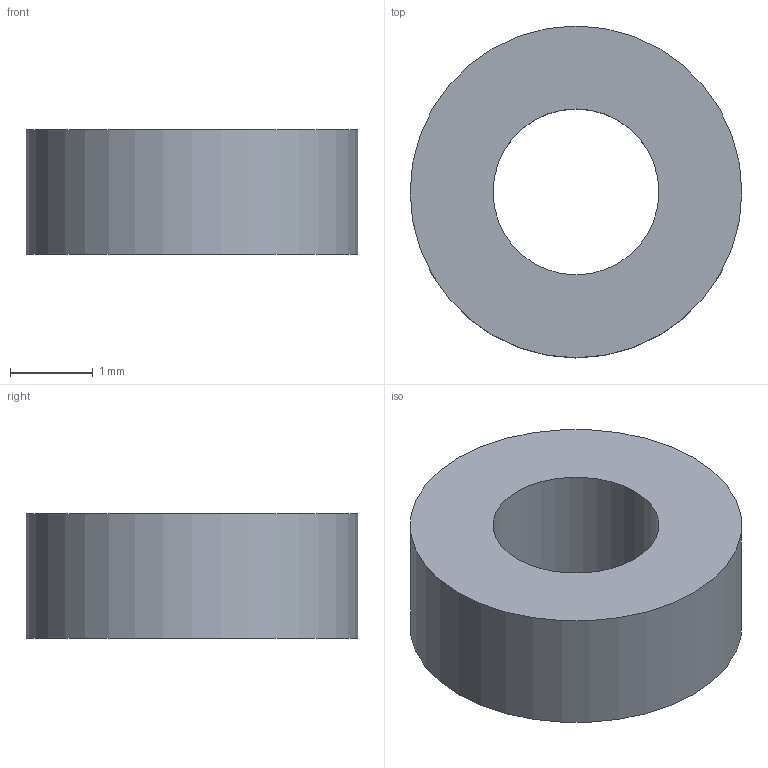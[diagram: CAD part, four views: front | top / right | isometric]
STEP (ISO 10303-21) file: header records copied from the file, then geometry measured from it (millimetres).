
FILE_DESCRIPTION(/* description */ ('STEP AP242 Edition 2','CAx-IF Rec.Pracs.---Representation and Presentation of Product Manufacturing Information (PMI)---4.0---2014-10-13','CAx-IF Rec.Pracs.---3D Tessellated Geometry---0.4---2014-09-14','2;1','CAx-IF Rec.Pracs.---User Defined Attributes---1.5---2016-08-15'),/* implementation_level */ '2;1');
FILE_NAME(/* name */ 'Assembly 1 - Part 1 (1)',/* time_stamp */ '2026-06-04T16:19:59Z',/* author */ (''),/* organization */ (''),/* preprocessor_version */ 'ST-DEVELOPER v20',/* originating_system */ 'ONSHAPE BY PTC INC, 1.215',/* authorisation */ ' ');
FILE_SCHEMA (('AP242_MANAGED_MODEL_BASED_3D_ENGINEERING_MIM_LF { 1 0 10303 442 3 1 4 }'));
Length unit declared in the file: metre
Products named in the file (1): Part 1
Bounding box: 4 x 4 x 1.5 mm (x, y, z)
Volume: 14.1 mm3; surface area: 47.1 mm2
Topology: 1 solids, 1 shells, 4 faces, 6 edges, 4 vertices
Faces by surface type: cylinder 2, plane 2
Full cylindrical faces by diameter (mm): 2 x1, 4 x1
Entity records: 110 total; most frequent: DIRECTION 18, CARTESIAN_POINT 13, AXIS2_PLACEMENT_3D 9, ORIENTED_EDGE 8, EDGE_LOOP 8, FACE_BOUND 8, EDGE_CURVE 4, VERTEX_POINT 4
